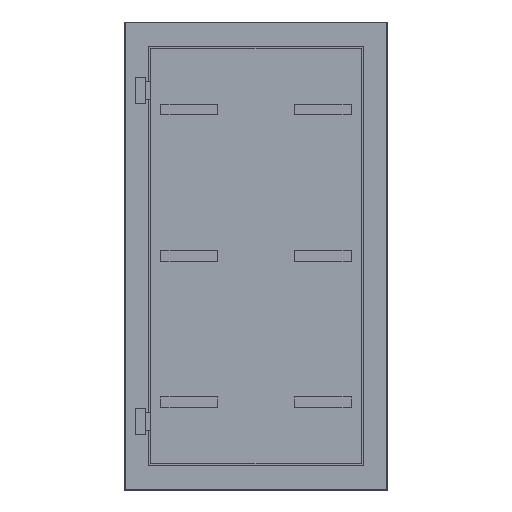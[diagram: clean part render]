
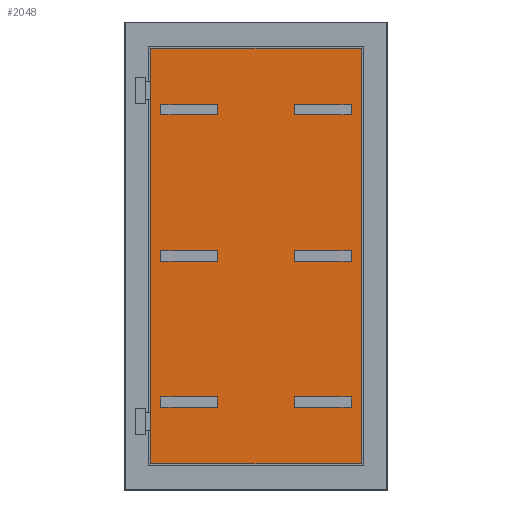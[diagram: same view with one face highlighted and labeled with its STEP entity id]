
A CAD part, top view. The second image highlights one B-rep face of the part: STEP entity #2048.
In plain terms, the highlighted planar face has unit normal (0, 0, 1).
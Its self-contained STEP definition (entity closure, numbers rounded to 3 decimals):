
#397=DIRECTION('',(0.,-1.,0.));
#398=VECTOR('',#397,2032.);
#399=CARTESIAN_POINT('',(-516.,1016.,-41.));
#400=LINE('',#399,#398);
#401=DIRECTION('',(-1.,0.,0.));
#402=VECTOR('',#401,1032.);
#403=CARTESIAN_POINT('',(516.,1016.,-41.));
#404=LINE('',#403,#402);
#405=DIRECTION('',(0.,1.,0.));
#406=VECTOR('',#405,2032.);
#407=CARTESIAN_POINT('',(516.,-1016.,-41.));
#408=LINE('',#407,#406);
#409=DIRECTION('',(1.,0.,0.));
#410=VECTOR('',#409,1032.);
#411=CARTESIAN_POINT('',(-516.,-1016.,-41.));
#412=LINE('',#411,#410);
#413=DIRECTION('',(1.,0.,0.));
#414=VECTOR('',#413,275.);
#415=CARTESIAN_POINT('',(-465.,690.,-41.));
#416=LINE('',#415,#414);
#417=DIRECTION('',(0.,1.,0.));
#418=VECTOR('',#417,50.);
#419=CARTESIAN_POINT('',(-190.,690.,-41.));
#420=LINE('',#419,#418);
#421=DIRECTION('',(1.,0.,0.));
#422=VECTOR('',#421,275.);
#423=CARTESIAN_POINT('',(-465.,740.,-41.));
#424=LINE('',#423,#422);
#425=DIRECTION('',(0.,1.,0.));
#426=VECTOR('',#425,50.);
#427=CARTESIAN_POINT('',(-465.,690.,-41.));
#428=LINE('',#427,#426);
#429=DIRECTION('',(1.,0.,0.));
#430=VECTOR('',#429,275.);
#431=CARTESIAN_POINT('',(190.,690.,-41.));
#432=LINE('',#431,#430);
#433=DIRECTION('',(0.,1.,0.));
#434=VECTOR('',#433,50.);
#435=CARTESIAN_POINT('',(465.,690.,-41.));
#436=LINE('',#435,#434);
#437=DIRECTION('',(1.,0.,0.));
#438=VECTOR('',#437,275.);
#439=CARTESIAN_POINT('',(190.,740.,-41.));
#440=LINE('',#439,#438);
#441=DIRECTION('',(0.,1.,0.));
#442=VECTOR('',#441,50.);
#443=CARTESIAN_POINT('',(190.,690.,-41.));
#444=LINE('',#443,#442);
#445=DIRECTION('',(0.,-1.,0.));
#446=VECTOR('',#445,50.);
#447=CARTESIAN_POINT('',(190.,25.,-41.));
#448=LINE('',#447,#446);
#449=DIRECTION('',(1.,0.,0.));
#450=VECTOR('',#449,275.);
#451=CARTESIAN_POINT('',(190.,-25.,-41.));
#452=LINE('',#451,#450);
#453=DIRECTION('',(0.,1.,0.));
#454=VECTOR('',#453,50.);
#455=CARTESIAN_POINT('',(465.,-25.,-41.));
#456=LINE('',#455,#454);
#457=DIRECTION('',(-1.,0.,0.));
#458=VECTOR('',#457,275.);
#459=CARTESIAN_POINT('',(465.,25.,-41.));
#460=LINE('',#459,#458);
#461=DIRECTION('',(-1.,0.,0.));
#462=VECTOR('',#461,275.);
#463=CARTESIAN_POINT('',(-190.,25.,-41.));
#464=LINE('',#463,#462);
#465=DIRECTION('',(0.,-1.,0.));
#466=VECTOR('',#465,50.);
#467=CARTESIAN_POINT('',(-465.,25.,-41.));
#468=LINE('',#467,#466);
#469=DIRECTION('',(1.,0.,0.));
#470=VECTOR('',#469,275.);
#471=CARTESIAN_POINT('',(-465.,-25.,-41.));
#472=LINE('',#471,#470);
#473=DIRECTION('',(0.,1.,0.));
#474=VECTOR('',#473,50.);
#475=CARTESIAN_POINT('',(-190.,-25.,-41.));
#476=LINE('',#475,#474);
#477=DIRECTION('',(0.,-1.,0.));
#478=VECTOR('',#477,50.);
#479=CARTESIAN_POINT('',(190.,-690.,-41.));
#480=LINE('',#479,#478);
#481=DIRECTION('',(1.,0.,0.));
#482=VECTOR('',#481,275.);
#483=CARTESIAN_POINT('',(190.,-740.,-41.));
#484=LINE('',#483,#482);
#485=DIRECTION('',(0.,1.,0.));
#486=VECTOR('',#485,50.);
#487=CARTESIAN_POINT('',(465.,-740.,-41.));
#488=LINE('',#487,#486);
#489=DIRECTION('',(-1.,0.,0.));
#490=VECTOR('',#489,275.);
#491=CARTESIAN_POINT('',(465.,-690.,-41.));
#492=LINE('',#491,#490);
#493=DIRECTION('',(-1.,0.,0.));
#494=VECTOR('',#493,275.);
#495=CARTESIAN_POINT('',(-190.,-690.,-41.));
#496=LINE('',#495,#494);
#497=DIRECTION('',(0.,-1.,0.));
#498=VECTOR('',#497,50.);
#499=CARTESIAN_POINT('',(-465.,-690.,-41.));
#500=LINE('',#499,#498);
#501=DIRECTION('',(1.,0.,0.));
#502=VECTOR('',#501,275.);
#503=CARTESIAN_POINT('',(-465.,-740.,-41.));
#504=LINE('',#503,#502);
#505=DIRECTION('',(0.,1.,0.));
#506=VECTOR('',#505,50.);
#507=CARTESIAN_POINT('',(-190.,-740.,-41.));
#508=LINE('',#507,#506);
#1185=CARTESIAN_POINT('',(-516.,1016.,-41.));
#1186=CARTESIAN_POINT('',(-516.,-1016.,-41.));
#1187=VERTEX_POINT('',#1185);
#1188=VERTEX_POINT('',#1186);
#1189=CARTESIAN_POINT('',(516.,-1016.,-41.));
#1190=VERTEX_POINT('',#1189);
#1191=CARTESIAN_POINT('',(516.,1016.,-41.));
#1192=VERTEX_POINT('',#1191);
#1313=CARTESIAN_POINT('',(-465.,690.,-41.));
#1314=CARTESIAN_POINT('',(-190.,690.,-41.));
#1315=VERTEX_POINT('',#1313);
#1316=VERTEX_POINT('',#1314);
#1317=CARTESIAN_POINT('',(190.,690.,-41.));
#1318=CARTESIAN_POINT('',(465.,690.,-41.));
#1319=VERTEX_POINT('',#1317);
#1320=VERTEX_POINT('',#1318);
#1321=CARTESIAN_POINT('',(-465.,740.,-41.));
#1322=CARTESIAN_POINT('',(-190.,740.,-41.));
#1323=VERTEX_POINT('',#1321);
#1324=VERTEX_POINT('',#1322);
#1325=CARTESIAN_POINT('',(190.,740.,-41.));
#1326=CARTESIAN_POINT('',(465.,740.,-41.));
#1327=VERTEX_POINT('',#1325);
#1328=VERTEX_POINT('',#1326);
#1377=CARTESIAN_POINT('',(190.,25.,-41.));
#1378=CARTESIAN_POINT('',(190.,-25.,-41.));
#1379=VERTEX_POINT('',#1377);
#1380=VERTEX_POINT('',#1378);
#1381=CARTESIAN_POINT('',(465.,-25.,-41.));
#1382=VERTEX_POINT('',#1381);
#1383=CARTESIAN_POINT('',(465.,25.,-41.));
#1384=VERTEX_POINT('',#1383);
#1385=CARTESIAN_POINT('',(-190.,25.,-41.));
#1386=CARTESIAN_POINT('',(-465.,25.,-41.));
#1387=VERTEX_POINT('',#1385);
#1388=VERTEX_POINT('',#1386);
#1389=CARTESIAN_POINT('',(-465.,-25.,-41.));
#1390=VERTEX_POINT('',#1389);
#1391=CARTESIAN_POINT('',(-190.,-25.,-41.));
#1392=VERTEX_POINT('',#1391);
#1441=CARTESIAN_POINT('',(190.,-690.,-41.));
#1442=CARTESIAN_POINT('',(190.,-740.,-41.));
#1443=VERTEX_POINT('',#1441);
#1444=VERTEX_POINT('',#1442);
#1445=CARTESIAN_POINT('',(465.,-740.,-41.));
#1446=VERTEX_POINT('',#1445);
#1447=CARTESIAN_POINT('',(465.,-690.,-41.));
#1448=VERTEX_POINT('',#1447);
#1449=CARTESIAN_POINT('',(-190.,-690.,-41.));
#1450=CARTESIAN_POINT('',(-465.,-690.,-41.));
#1451=VERTEX_POINT('',#1449);
#1452=VERTEX_POINT('',#1450);
#1453=CARTESIAN_POINT('',(-465.,-740.,-41.));
#1454=VERTEX_POINT('',#1453);
#1455=CARTESIAN_POINT('',(-190.,-740.,-41.));
#1456=VERTEX_POINT('',#1455);
#1979=CARTESIAN_POINT('',(0.,0.,-41.));
#1980=DIRECTION('',(0.,0.,1.));
#1981=DIRECTION('',(1.,0.,0.));
#1982=AXIS2_PLACEMENT_3D('',#1979,#1980,#1981);
#1983=PLANE('',#1982);
#1985=ORIENTED_EDGE('',*,*,#1984,.F.);
#1987=ORIENTED_EDGE('',*,*,#1986,.F.);
#1989=ORIENTED_EDGE('',*,*,#1988,.F.);
#1991=ORIENTED_EDGE('',*,*,#1990,.F.);
#1992=EDGE_LOOP('',(#1985,#1987,#1989,#1991));
#1993=FACE_OUTER_BOUND('',#1992,.F.);
#1994=ORIENTED_EDGE('',*,*,#1747,.T.);
#1995=ORIENTED_EDGE('',*,*,#1814,.T.);
#1996=ORIENTED_EDGE('',*,*,#1879,.F.);
#1997=ORIENTED_EDGE('',*,*,#1944,.F.);
#1998=EDGE_LOOP('',(#1994,#1995,#1996,#1997));
#1999=FACE_BOUND('',#1998,.F.);
#2000=ORIENTED_EDGE('',*,*,#1770,.T.);
#2002=ORIENTED_EDGE('',*,*,#2001,.T.);
#2003=ORIENTED_EDGE('',*,*,#1901,.F.);
#2005=ORIENTED_EDGE('',*,*,#2004,.F.);
#2006=EDGE_LOOP('',(#2000,#2002,#2003,#2005));
#2007=FACE_BOUND('',#2006,.F.);
#2009=ORIENTED_EDGE('',*,*,#2008,.T.);
#2011=ORIENTED_EDGE('',*,*,#2010,.T.);
#2013=ORIENTED_EDGE('',*,*,#2012,.T.);
#2015=ORIENTED_EDGE('',*,*,#2014,.T.);
#2016=EDGE_LOOP('',(#2009,#2011,#2013,#2015));
#2017=FACE_BOUND('',#2016,.F.);
#2019=ORIENTED_EDGE('',*,*,#2018,.T.);
#2021=ORIENTED_EDGE('',*,*,#2020,.T.);
#2023=ORIENTED_EDGE('',*,*,#2022,.T.);
#2025=ORIENTED_EDGE('',*,*,#2024,.T.);
#2026=EDGE_LOOP('',(#2019,#2021,#2023,#2025));
#2027=FACE_BOUND('',#2026,.F.);
#2029=ORIENTED_EDGE('',*,*,#2028,.T.);
#2031=ORIENTED_EDGE('',*,*,#2030,.T.);
#2033=ORIENTED_EDGE('',*,*,#2032,.T.);
#2035=ORIENTED_EDGE('',*,*,#2034,.T.);
#2036=EDGE_LOOP('',(#2029,#2031,#2033,#2035));
#2037=FACE_BOUND('',#2036,.F.);
#2039=ORIENTED_EDGE('',*,*,#2038,.T.);
#2041=ORIENTED_EDGE('',*,*,#2040,.T.);
#2043=ORIENTED_EDGE('',*,*,#2042,.T.);
#2045=ORIENTED_EDGE('',*,*,#2044,.T.);
#2046=EDGE_LOOP('',(#2039,#2041,#2043,#2045));
#2047=FACE_BOUND('',#2046,.F.);
#1747=EDGE_CURVE('',#1315,#1316,#416,.T.);
#1770=EDGE_CURVE('',#1319,#1320,#432,.T.);
#1814=EDGE_CURVE('',#1316,#1324,#420,.T.);
#1879=EDGE_CURVE('',#1323,#1324,#424,.T.);
#1901=EDGE_CURVE('',#1327,#1328,#440,.T.);
#1944=EDGE_CURVE('',#1315,#1323,#428,.T.);
#1984=EDGE_CURVE('',#1187,#1188,#400,.T.);
#1986=EDGE_CURVE('',#1192,#1187,#404,.T.);
#1988=EDGE_CURVE('',#1190,#1192,#408,.T.);
#1990=EDGE_CURVE('',#1188,#1190,#412,.T.);
#2001=EDGE_CURVE('',#1320,#1328,#436,.T.);
#2004=EDGE_CURVE('',#1319,#1327,#444,.T.);
#2008=EDGE_CURVE('',#1379,#1380,#448,.T.);
#2010=EDGE_CURVE('',#1380,#1382,#452,.T.);
#2012=EDGE_CURVE('',#1382,#1384,#456,.T.);
#2014=EDGE_CURVE('',#1384,#1379,#460,.T.);
#2018=EDGE_CURVE('',#1387,#1388,#464,.T.);
#2020=EDGE_CURVE('',#1388,#1390,#468,.T.);
#2022=EDGE_CURVE('',#1390,#1392,#472,.T.);
#2024=EDGE_CURVE('',#1392,#1387,#476,.T.);
#2028=EDGE_CURVE('',#1443,#1444,#480,.T.);
#2030=EDGE_CURVE('',#1444,#1446,#484,.T.);
#2032=EDGE_CURVE('',#1446,#1448,#488,.T.);
#2034=EDGE_CURVE('',#1448,#1443,#492,.T.);
#2038=EDGE_CURVE('',#1451,#1452,#496,.T.);
#2040=EDGE_CURVE('',#1452,#1454,#500,.T.);
#2042=EDGE_CURVE('',#1454,#1456,#504,.T.);
#2044=EDGE_CURVE('',#1456,#1451,#508,.T.);
#2048=ADVANCED_FACE('',(#1993,#1999,#2007,#2017,#2027,#2037,#2047),#1983,.T.);
